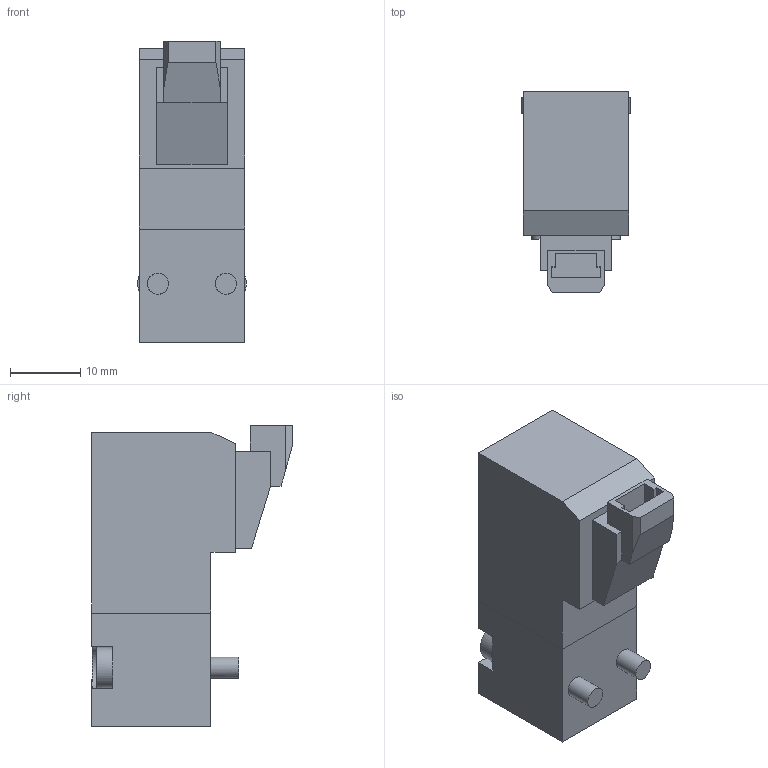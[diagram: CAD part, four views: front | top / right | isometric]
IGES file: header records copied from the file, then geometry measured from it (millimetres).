
Global section: file name: N3##_R7#-8; native system: Autodesk Inventor 2014; preprocessor: unknown; author: A. Manieri; organization: Pneumax S.p.A.; date: 20160913.142033; units: millimetre
Bounding box: 15.5 x 28.6 x 42.97 mm (x, y, z)
Volume: 12257.5 mm3; surface area: 4114.6 mm2
Topology: 1 solids, 1 shells, 97 faces, 251 edges, 164 vertices
Faces by surface type: bspline 97
